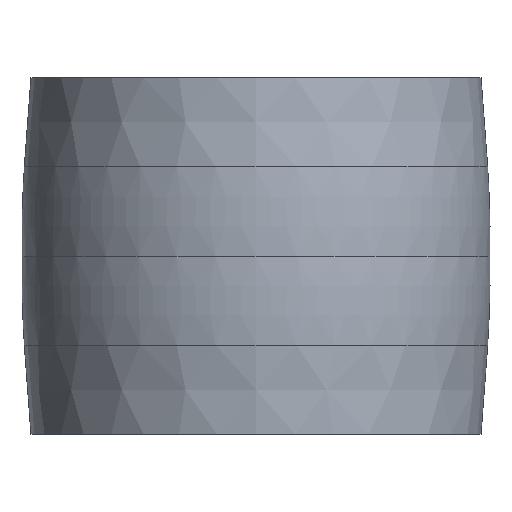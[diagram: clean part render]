
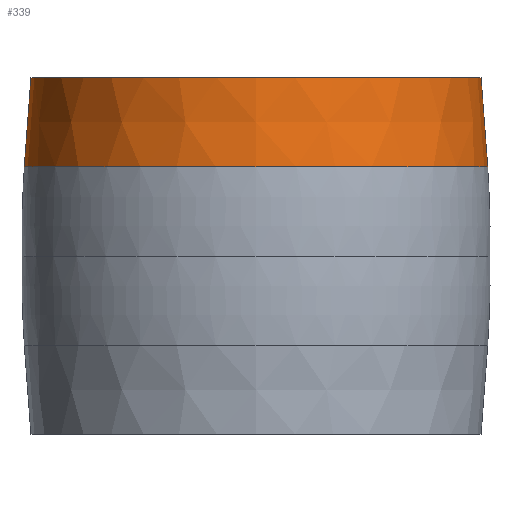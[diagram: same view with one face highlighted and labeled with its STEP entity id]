
A CAD part, front view. The second image highlights one B-rep face of the part: STEP entity #339.
In plain terms, the highlighted conical face has half-angle 4.289 degrees and reference radius 52 mm.
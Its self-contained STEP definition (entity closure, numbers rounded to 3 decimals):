
#90 = DIRECTION ( 'NONE',  ( 0., 0., -1. ) ) ;
#134 = CARTESIAN_POINT ( 'NONE',  ( 50.5, 0., 80. ) ) ;
#183 = EDGE_CURVE ( 'NONE', #927, #1203, #278, .T. ) ;
#270 = CARTESIAN_POINT ( 'NONE',  ( 0., 0., 80. ) ) ;
#278 = CIRCLE ( 'NONE', #836, 50.5 ) ;
#323 = LINE ( 'NONE', #1393, #630 ) ;
#339 = ADVANCED_FACE ( 'NONE', ( #409 ), #1116, .T. ) ;
#402 = ORIENTED_EDGE ( 'NONE', *, *, #183, .T. ) ;
#409 = FACE_OUTER_BOUND ( 'NONE', #885, .T. ) ;
#411 = ORIENTED_EDGE ( 'NONE', *, *, #751, .F. ) ;
#428 = EDGE_CURVE ( 'NONE', #1115, #1069, #904, .T. ) ;
#439 = EDGE_CURVE ( 'NONE', #1203, #1069, #323, .T. ) ;
#476 = DIRECTION ( 'NONE',  ( 0., 0., -1. ) ) ;
#507 = CARTESIAN_POINT ( 'NONE',  ( 0., 0., 60. ) ) ;
#510 = AXIS2_PLACEMENT_3D ( 'NONE', #507, #942, #1263 ) ;
#584 = ORIENTED_EDGE ( 'NONE', *, *, #428, .F. ) ;
#612 = CARTESIAN_POINT ( 'NONE',  ( 52., 0., 60. ) ) ;
#630 = VECTOR ( 'NONE', #1085, 1000. ) ;
#751 = EDGE_CURVE ( 'NONE', #927, #1115, #867, .T. ) ;
#836 = AXIS2_PLACEMENT_3D ( 'NONE', #270, #476, #1105 ) ;
#858 = DIRECTION ( 'NONE',  ( 0.075, 0., -0.997 ) ) ;
#867 = LINE ( 'NONE', #1210, #921 ) ;
#885 = EDGE_LOOP ( 'NONE', ( #411, #402, #1207, #584 ) ) ;
#904 = CIRCLE ( 'NONE', #1006, 52. ) ;
#921 = VECTOR ( 'NONE', #858, 1000. ) ;
#927 = VERTEX_POINT ( 'NONE', #134 ) ;
#942 = DIRECTION ( 'NONE',  ( 0., 0., -1. ) ) ;
#1006 = AXIS2_PLACEMENT_3D ( 'NONE', #1174, #90, #1286 ) ;
#1069 = VERTEX_POINT ( 'NONE', #1264 ) ;
#1085 = DIRECTION ( 'NONE',  ( -0.075, 0., -0.997 ) ) ;
#1105 = DIRECTION ( 'NONE',  ( -1., 0., 0. ) ) ;
#1115 = VERTEX_POINT ( 'NONE', #612 ) ;
#1116 = CONICAL_SURFACE ( 'NONE', #510, 52., 0.075 ) ;
#1174 = CARTESIAN_POINT ( 'NONE',  ( 0., 0., 60. ) ) ;
#1203 = VERTEX_POINT ( 'NONE', #1316 ) ;
#1207 = ORIENTED_EDGE ( 'NONE', *, *, #439, .T. ) ;
#1210 = CARTESIAN_POINT ( 'NONE',  ( 52., 0., 60. ) ) ;
#1263 = DIRECTION ( 'NONE',  ( -1., 0., 0. ) ) ;
#1264 = CARTESIAN_POINT ( 'NONE',  ( -52., 0., 60. ) ) ;
#1286 = DIRECTION ( 'NONE',  ( -1., 0., 0. ) ) ;
#1316 = CARTESIAN_POINT ( 'NONE',  ( -50.5, 0., 80. ) ) ;
#1393 = CARTESIAN_POINT ( 'NONE',  ( -52., 0., 60. ) ) ;
